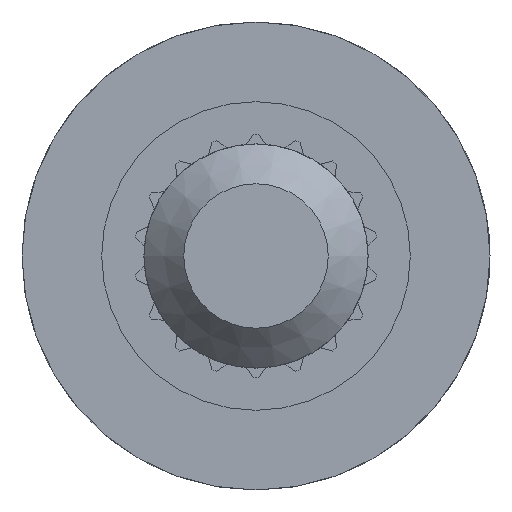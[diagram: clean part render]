
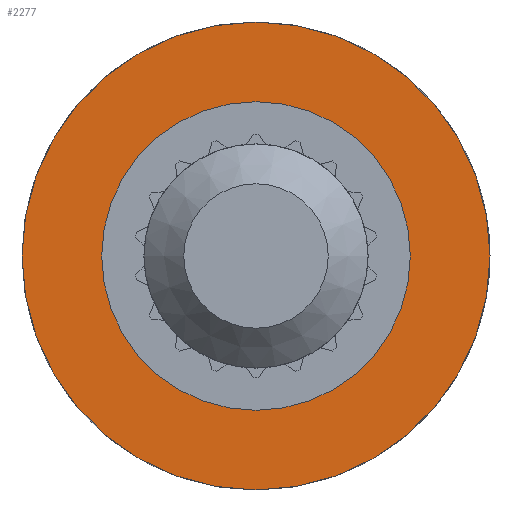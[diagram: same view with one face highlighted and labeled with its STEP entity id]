
A CAD part, left-side view. The second image highlights one B-rep face of the part: STEP entity #2277.
In plain terms, the highlighted planar face has unit normal (-1, 0, 0).
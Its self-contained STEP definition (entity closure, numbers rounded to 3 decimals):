
#20=FACE_BOUND($,#444,.T.);
#154=CIRCLE($,#2524,1.194);
#160=CIRCLE($,#2536,0.787);
#298=FACE_OUTER_BOUND($,#443,.T.);
#443=EDGE_LOOP($,(#2020));
#444=EDGE_LOOP($,(#2021));
#1046=VERTEX_POINT($,#3898);
#1051=VERTEX_POINT($,#3915);
#1369=EDGE_CURVE($,#1046,#1046,#154,.T.);
#1375=EDGE_CURVE($,#1051,#1051,#160,.T.);
#2020=ORIENTED_EDGE($,*,*,#1369,.F.);
#2021=ORIENTED_EDGE($,*,*,#1375,.T.);
#2138=PLANE($,#2537);
#2277=ADVANCED_FACE($,(#298,#20),#2138,.T.);
#2524=AXIS2_PLACEMENT_3D($,#3899,#3231,#3232);
#2536=AXIS2_PLACEMENT_3D($,#3916,#3255,#3256);
#2537=AXIS2_PLACEMENT_3D($,#3917,#3257,#3258);
#3231=DIRECTION('center_axis',(1.,0.,0.));
#3232=DIRECTION('ref_axis',(0.,1.,0.));
#3255=DIRECTION('center_axis',(1.,0.,0.));
#3256=DIRECTION('ref_axis',(0.,1.,0.));
#3257=DIRECTION('center_axis',(-1.,0.,0.));
#3258=DIRECTION('ref_axis',(0.,0.,1.));
#3898=CARTESIAN_POINT('',(9.119,1.194,0.));
#3899=CARTESIAN_POINT('Origin',(9.119,0.,0.));
#3915=CARTESIAN_POINT('',(9.119,0.787,0.));
#3916=CARTESIAN_POINT('Origin',(9.119,0.,0.));
#3917=CARTESIAN_POINT('Origin',(9.119,0.991,0.));
